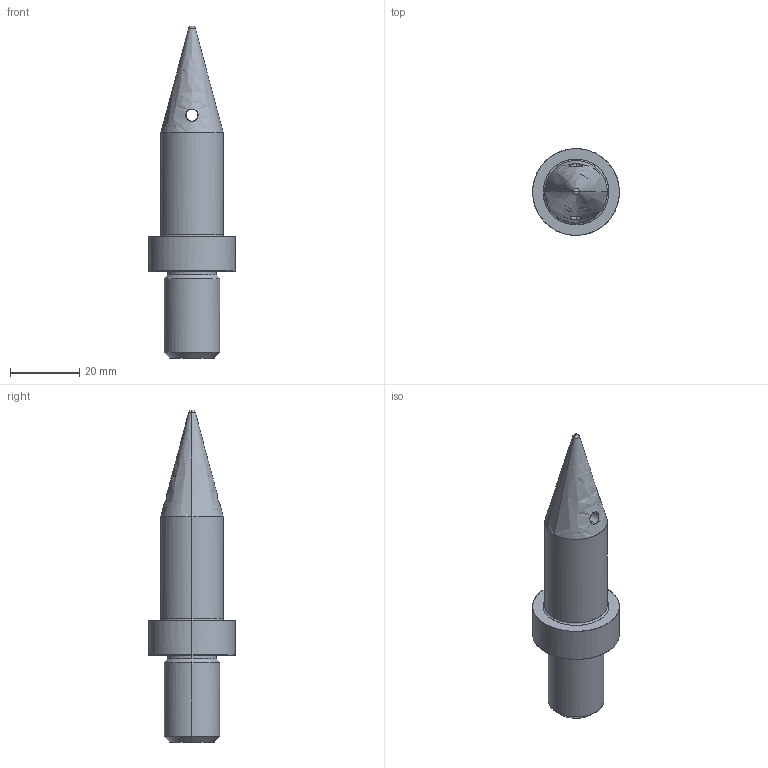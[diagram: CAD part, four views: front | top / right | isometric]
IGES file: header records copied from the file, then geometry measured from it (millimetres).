
Global section: file name: E:\UnigraphicsGraphicData\MISUMI_PRESS-PARTS\IGES\3d_slpsh25-p18.00-b30-t10_02961_r00.igs; native system: NX V5.0; preprocessor: UGS NX IGES V5.0; author: MISUMI; date: 20110105.162802; units: millimetre
Bounding box: 25 x 25 x 95.72 mm (x, y, z)
Surface area: 5579.5 mm2 (no closed solid volume)
Topology: 0 solids, 0 shells, 25 faces, 152 edges, 150 vertices
Faces by surface type: bspline 25
